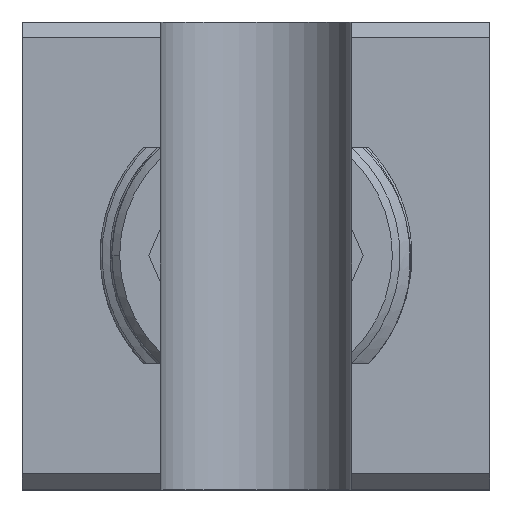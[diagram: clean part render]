
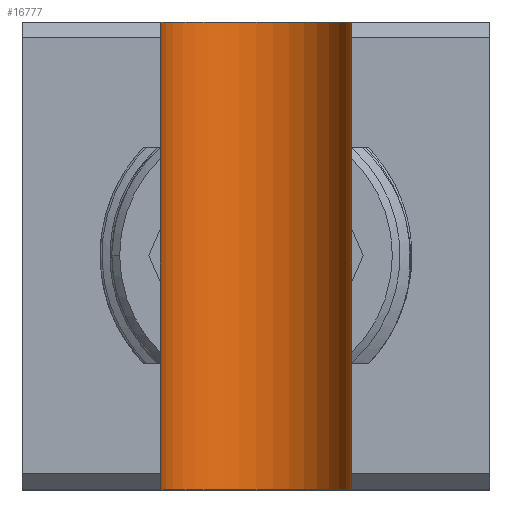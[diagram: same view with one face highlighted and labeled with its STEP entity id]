
A CAD part, top view. The second image highlights one B-rep face of the part: STEP entity #16777.
In plain terms, the highlighted cylindrical face has radius 12.261 mm (diameter 24.523 mm), a partial arc.
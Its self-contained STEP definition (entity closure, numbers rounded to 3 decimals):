
#958 = DIRECTION ( 'NONE',  ( 0., 1., 0. ) ) ;
#976 = CARTESIAN_POINT ( 'NONE',  ( -17.738, -1.5, 5.272 ) ) ;
#1031 = VERTEX_POINT ( 'NONE', #976 ) ;
#2244 = ORIENTED_EDGE ( 'NONE', *, *, #35914, .F. ) ;
#2330 = DIRECTION ( 'NONE',  ( 0., 1., 0. ) ) ;
#2475 = EDGE_CURVE ( 'NONE', #1031, #13493, #27425, .T. ) ;
#2816 = CARTESIAN_POINT ( 'NONE',  ( -30., -35., 5.272 ) ) ;
#3608 = VECTOR ( 'NONE', #16774, 1000. ) ;
#3695 = AXIS2_PLACEMENT_3D ( 'NONE', #2816, #37267, #21252 ) ;
#4241 = VERTEX_POINT ( 'NONE', #34594 ) ;
#4306 = CIRCLE ( 'NONE', #20951, 12.262 ) ;
#4366 = DIRECTION ( 'NONE',  ( 0., -1., 0. ) ) ;
#4482 = ORIENTED_EDGE ( 'NONE', *, *, #38140, .T. ) ;
#4862 = ORIENTED_EDGE ( 'NONE', *, *, #13022, .F. ) ;
#5328 = CARTESIAN_POINT ( 'NONE',  ( -17.738, -110., 5.272 ) ) ;
#6516 = EDGE_CURVE ( 'NONE', #22517, #4241, #21357, .T. ) ;
#6765 = CARTESIAN_POINT ( 'NONE',  ( -30., 25., 5.272 ) ) ;
#10047 = EDGE_CURVE ( 'NONE', #36762, #38310, #35363, .T. ) ;
#10859 = DIRECTION ( 'NONE',  ( 0., -1., 0. ) ) ;
#11497 = CARTESIAN_POINT ( 'NONE',  ( -42.262, -1.5, 5.272 ) ) ;
#11935 = CARTESIAN_POINT ( 'NONE',  ( -42.262, -110., 5.272 ) ) ;
#13022 = EDGE_CURVE ( 'NONE', #1031, #38310, #22593, .T. ) ;
#13493 = VERTEX_POINT ( 'NONE', #22752 ) ;
#15409 = CARTESIAN_POINT ( 'NONE',  ( -17.738, -110., 5.272 ) ) ;
#15993 = DIRECTION ( 'NONE',  ( 0., -1., 0. ) ) ;
#16441 = AXIS2_PLACEMENT_3D ( 'NONE', #16981, #2330, #26372 ) ;
#16673 = CARTESIAN_POINT ( 'NONE',  ( -42.262, 25., 5.272 ) ) ;
#16774 = DIRECTION ( 'NONE',  ( 0., 1., 0. ) ) ;
#16777 = ADVANCED_FACE ( 'NONE', ( #29777 ), #35177, .F. ) ;
#16981 = CARTESIAN_POINT ( 'NONE',  ( -30., -110., 5.272 ) ) ;
#17251 = VECTOR ( 'NONE', #958, 1000. ) ;
#17720 = VECTOR ( 'NONE', #4366, 1000. ) ;
#18634 = CARTESIAN_POINT ( 'NONE',  ( -42.262, -110., 5.272 ) ) ;
#18761 = VERTEX_POINT ( 'NONE', #16673 ) ;
#19149 = ORIENTED_EDGE ( 'NONE', *, *, #31366, .F. ) ;
#20010 = EDGE_LOOP ( 'NONE', ( #19149, #20849, #4862, #38166, #23288, #2244, #4482, #32840 ) ) ;
#20849 = ORIENTED_EDGE ( 'NONE', *, *, #10047, .T. ) ;
#20951 = AXIS2_PLACEMENT_3D ( 'NONE', #6765, #15993, #34190 ) ;
#21252 = DIRECTION ( 'NONE',  ( 0., 0., 1. ) ) ;
#21317 = CARTESIAN_POINT ( 'NONE',  ( -17.738, -35., 5.272 ) ) ;
#21357 = LINE ( 'NONE', #11935, #35532 ) ;
#22517 = VERTEX_POINT ( 'NONE', #27154 ) ;
#22593 = LINE ( 'NONE', #34793, #17720 ) ;
#22752 = CARTESIAN_POINT ( 'NONE',  ( -17.738, 25., 5.272 ) ) ;
#23266 = CARTESIAN_POINT ( 'NONE',  ( -17.738, -8.5, 5.272 ) ) ;
#23288 = ORIENTED_EDGE ( 'NONE', *, *, #31075, .F. ) ;
#26372 = DIRECTION ( 'NONE',  ( 0., 0., 1. ) ) ;
#26470 = CARTESIAN_POINT ( 'NONE',  ( -42.262, 0., 5.272 ) ) ;
#26814 = DIRECTION ( 'NONE',  ( 0., 1., 0. ) ) ;
#26823 = VECTOR ( 'NONE', #10859, 1000. ) ;
#27154 = CARTESIAN_POINT ( 'NONE',  ( -42.262, -35., 5.272 ) ) ;
#27373 = DIRECTION ( 'NONE',  ( 0., 1., 0. ) ) ;
#27425 = LINE ( 'NONE', #15409, #36818 ) ;
#29091 = LINE ( 'NONE', #26470, #26823 ) ;
#29777 = FACE_OUTER_BOUND ( 'NONE', #20010, .T. ) ;
#31034 = LINE ( 'NONE', #18634, #17251 ) ;
#31075 = EDGE_CURVE ( 'NONE', #18761, #13493, #4306, .T. ) ;
#31366 = EDGE_CURVE ( 'NONE', #36762, #22517, #31808, .T. ) ;
#31808 = CIRCLE ( 'NONE', #3695, 12.262 ) ;
#32840 = ORIENTED_EDGE ( 'NONE', *, *, #6516, .F. ) ;
#33247 = VERTEX_POINT ( 'NONE', #11497 ) ;
#34190 = DIRECTION ( 'NONE',  ( 0., 0., -1. ) ) ;
#34594 = CARTESIAN_POINT ( 'NONE',  ( -42.262, -8.5, 5.272 ) ) ;
#34793 = CARTESIAN_POINT ( 'NONE',  ( -17.738, 0., 5.272 ) ) ;
#35177 = CYLINDRICAL_SURFACE ( 'NONE', #16441, 12.262 ) ;
#35363 = LINE ( 'NONE', #5328, #3608 ) ;
#35532 = VECTOR ( 'NONE', #27373, 1000. ) ;
#35914 = EDGE_CURVE ( 'NONE', #33247, #18761, #31034, .T. ) ;
#36762 = VERTEX_POINT ( 'NONE', #21317 ) ;
#36818 = VECTOR ( 'NONE', #26814, 1000. ) ;
#37267 = DIRECTION ( 'NONE',  ( 0., 1., 0. ) ) ;
#38140 = EDGE_CURVE ( 'NONE', #33247, #4241, #29091, .T. ) ;
#38166 = ORIENTED_EDGE ( 'NONE', *, *, #2475, .T. ) ;
#38310 = VERTEX_POINT ( 'NONE', #23266 ) ;
